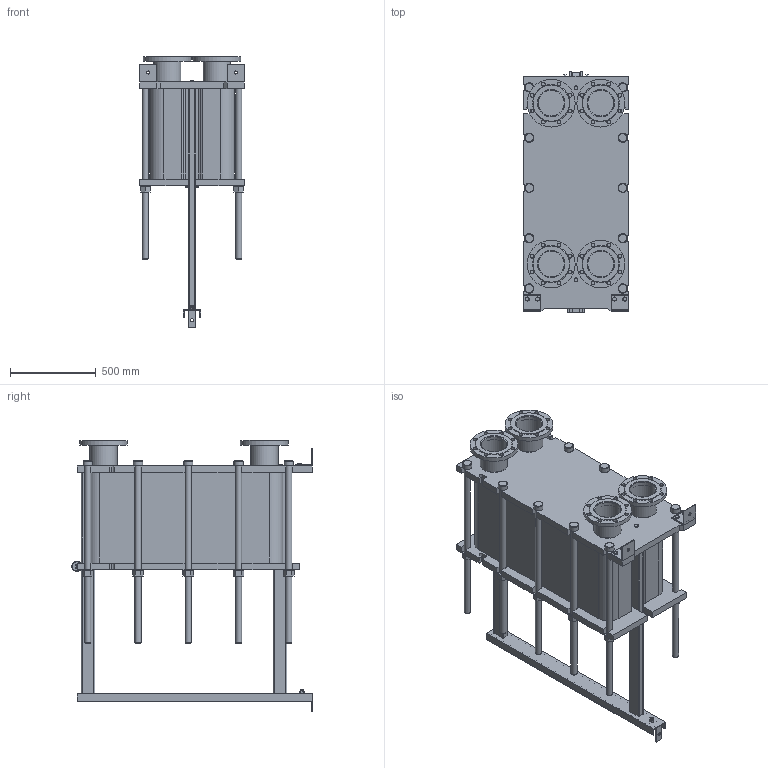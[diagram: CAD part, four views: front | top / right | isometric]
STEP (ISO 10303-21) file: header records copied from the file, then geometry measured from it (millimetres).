
FILE_DESCRIPTION(/* description */ (''),/* implementation_level */ '2;1');
FILE_NAME(/* name */ 'C:\Users\zhuro\Desktop\ENCO\TO\ЭН-041\ЭН-0,5-041-153-1.stp',/* time_stamp */ '2022-06-06T11:02:08+03:00',/* author */ ('zhuro'),/* organization */ (''),/* preprocessor_version */ 'ST-DEVELOPER v18.1',/* originating_system */ 'Autodesk Inventor 2022',/* authorisation */ '');
FILE_SCHEMA (('AUTOMOTIVE_DESIGN { 1 0 10303 214 3 1 1 }'));
Length unit declared in the file: millimetre
Products named in the file (1): ЭН-0,5-041-153-1
Bounding box: 610 x 1406.5 x 1587.5 mm (x, y, z)
Volume: 381080115.1 mm3; surface area: 10193117.7 mm2
Topology: 52 solids, 52 shells, 711 faces, 1696 edges, 1094 vertices
Faces by surface type: plane 487, cylinder 177, cone 41, torus 6
Full cylindrical faces by diameter (mm): 8 x4, 10 x2, 16 x8, 18 x3, 22 x32, 36 x24, 50 x1, 54 x10, 60 x12, 151 x4, 161 x8, 280 x4
Entity records: 22667 total; most frequent: CARTESIAN_POINT 5230, DIRECTION 3644, ORIENTED_EDGE 3392, EDGE_CURVE 1696, AXIS2_PLACEMENT_3D 1272, LINE 1100, VECTOR 1100, VERTEX_POINT 1094
